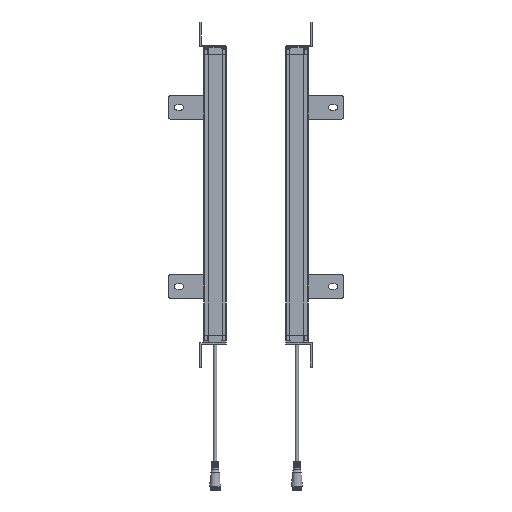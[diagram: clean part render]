
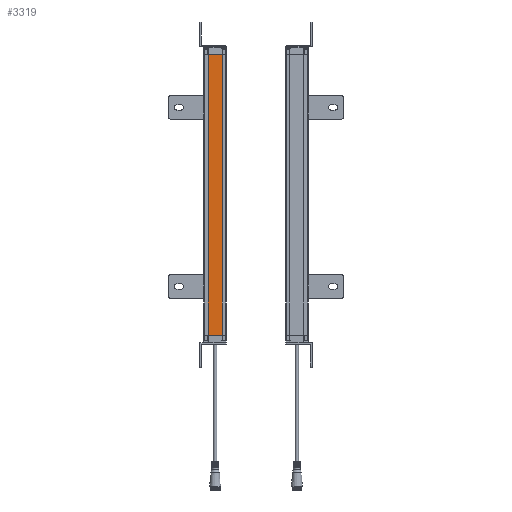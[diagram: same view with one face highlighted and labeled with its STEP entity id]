
A CAD part, left-side view. The second image highlights one B-rep face of the part: STEP entity #3319.
In plain terms, the highlighted planar face has unit normal (-1, 0, 0).
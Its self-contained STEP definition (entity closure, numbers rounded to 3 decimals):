
#1795=FACE_OUTER_BOUND('',#5986,.T.);
#3319=ADVANCED_FACE('',(#1795),#4749,.T.);
#4749=PLANE('',#29857);
#5986=EDGE_LOOP('',(#9184,#9185,#9186,#9187));
#9184=ORIENTED_EDGE('',*,*,#19383,.F.);
#9185=ORIENTED_EDGE('',*,*,#19072,.T.);
#9186=ORIENTED_EDGE('',*,*,#19385,.T.);
#9187=ORIENTED_EDGE('',*,*,#19386,.F.);
#16145=VERTEX_POINT('',#43699);
#16146=VERTEX_POINT('',#43701);
#16357=VERTEX_POINT('',#44323);
#16358=VERTEX_POINT('',#44327);
#19072=EDGE_CURVE('',#16146,#16145,#24663,.T.);
#19383=EDGE_CURVE('',#16146,#16357,#24884,.T.);
#19385=EDGE_CURVE('',#16145,#16358,#24886,.T.);
#19386=EDGE_CURVE('',#16357,#16358,#24887,.T.);
#24663=LINE('',#43700,#27142);
#24884=LINE('',#44322,#27363);
#24886=LINE('',#44326,#27365);
#24887=LINE('',#44328,#27366);
#27142=VECTOR('',#33404,1.);
#27363=VECTOR('',#34005,1.);
#27365=VECTOR('',#34009,1.);
#27366=VECTOR('',#34010,1.);
#29857=AXIS2_PLACEMENT_3D('',#44329,#34011,#34012);
#33404=DIRECTION('',(0.,1.,0.));
#34005=DIRECTION('',(0.,0.,-1.));
#34009=DIRECTION('',(0.,0.,-1.));
#34010=DIRECTION('',(0.,1.,0.));
#34011=DIRECTION('',(-1.,0.,0.));
#34012=DIRECTION('',(0.,1.,0.));
#43699=CARTESIAN_POINT('',(50.4,-5.5,318.059));
#43700=CARTESIAN_POINT('',(50.4,-5.5,318.059));
#43701=CARTESIAN_POINT('',(50.4,-23.5,318.059));
#44322=CARTESIAN_POINT('',(50.4,-23.5,103.059));
#44323=CARTESIAN_POINT('',(50.4,-23.5,-41.941));
#44326=CARTESIAN_POINT('',(50.4,-5.5,103.059));
#44327=CARTESIAN_POINT('',(50.4,-5.5,-41.941));
#44328=CARTESIAN_POINT('',(50.4,-23.5,-41.941));
#44329=CARTESIAN_POINT('',(50.4,-5.5,-61.941));
